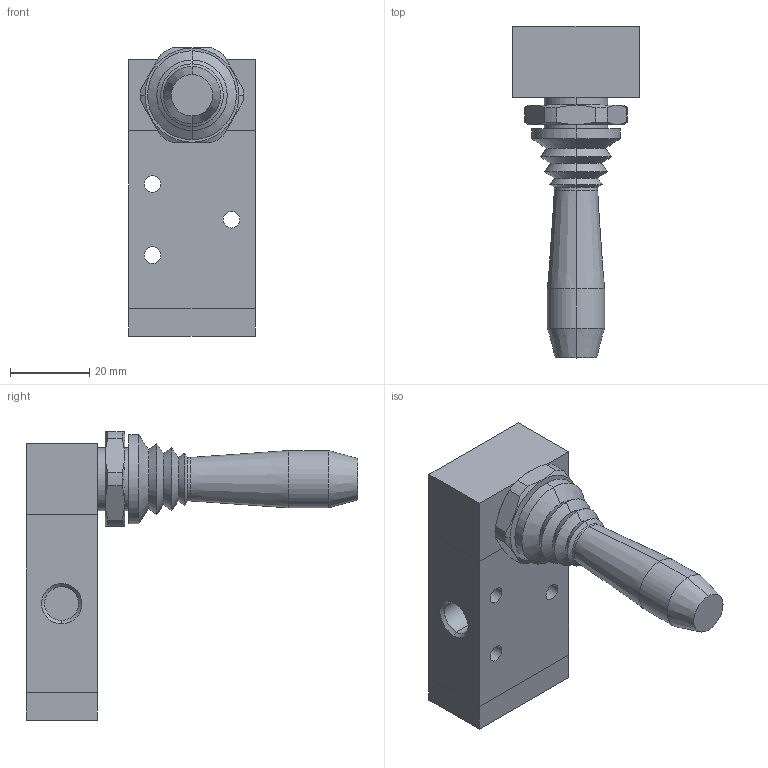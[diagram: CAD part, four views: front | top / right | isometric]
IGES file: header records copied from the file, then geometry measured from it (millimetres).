
Global section: file name: No Iges File Name specified; native system: AutoDesk Inventor R11.0; preprocessor: AutoDesk Inventor Iges Exporter R11.0; author: No Author specified; organization: No Organization specified; date: 20061219.113935; units: millimetre
Bounding box: 32 x 84.01 x 73 mm (x, y, z)
Volume: 50440.6 mm3; surface area: 13970.9 mm2
Topology: 2 solids, 2 shells, 89 faces, 202 edges, 124 vertices
Faces by surface type: plane 26, cone 22, bspline 19, cylinder 14, revolution 8
